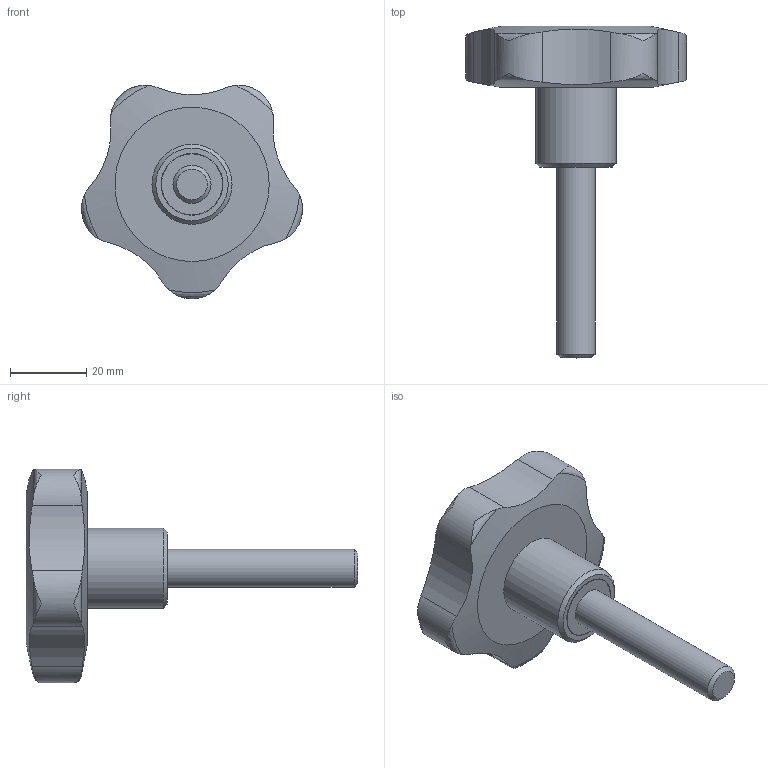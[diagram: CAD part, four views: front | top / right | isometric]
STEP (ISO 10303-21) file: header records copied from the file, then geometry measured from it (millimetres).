
FILE_DESCRIPTION( ( 'STEP AP203' ), '1' );
FILE_NAME( 'C:/Temp/Ganter_Step_05_03_2020/data/2_2/gn_5337_4/gn_5337_4_s/Star knob GN 5337.4-60-M10-50.stp', '2020-03-05T12:09:51', ( 'License CC BY-ND 4.0' ), ( 'CADENAS' ), ' ', 'PARTsolutions', ' ' );
FILE_SCHEMA( ( 'CONFIG_CONTROL_DESIGN' ) );
Length unit declared in the file: millimetre
Products named in the file (1): _Star knob GN 5337.4-60-M10-50
Bounding box: 57.94 x 87 x 55.99 mm (x, y, z)
Volume: 44348.4 mm3; surface area: 9802.3 mm2
Topology: 1 solids, 1 shells, 34 faces, 90 edges, 61 vertices
Faces by surface type: cylinder 14, torus 10, plane 5, cone 3, bspline 1, sphere 1
Full cylindrical faces by diameter (mm): 10 x1, 16 x1, 16.2 x1, 21 x1
Entity records: 1493 total; most frequent: CARTESIAN_POINT 730, ORIENTED_EDGE 154, DIRECTION 122, EDGE_CURVE 77, VERTEX_POINT 58, AXIS2_PLACEMENT_3D 56, EDGE_LOOP 46, B_SPLINE_CURVE_WITH_KNOTS 45
